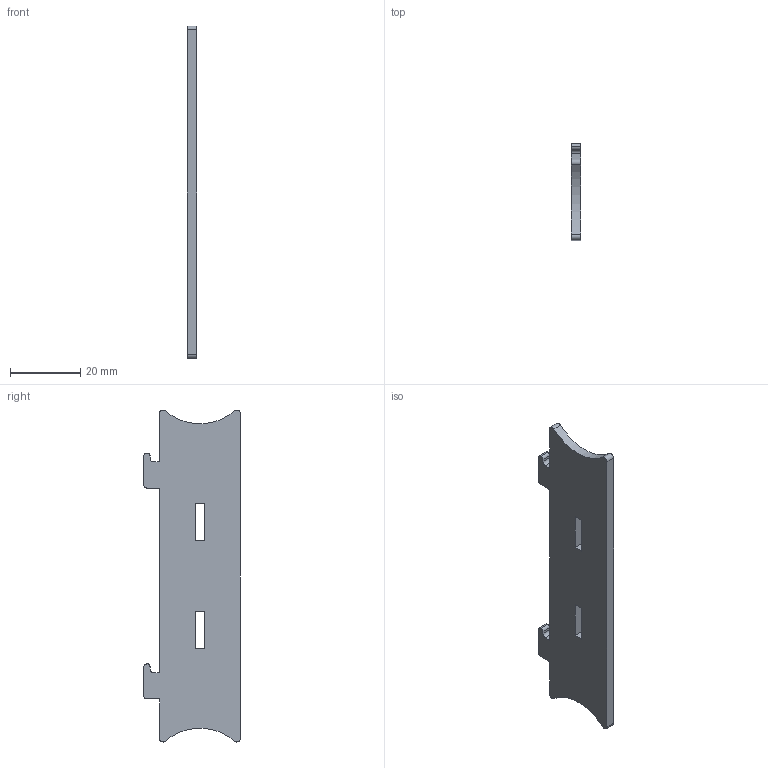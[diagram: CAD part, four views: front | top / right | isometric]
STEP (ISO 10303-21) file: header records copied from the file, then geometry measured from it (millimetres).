
FILE_DESCRIPTION(/* description */ ('STEP AP242 Edition 2','CAx-IF Rec.Pracs.---Representation and Presentation of Product Manufacturing Information (PMI)---4.0---2014-10-13','CAx-IF Rec.Pracs.---3D Tessellated Geometry---0.4---2014-09-14','2;1','CAx-IF Rec.Pracs.---User Defined Attributes---1.5---2016-08-15'),/* implementation_level */ '2;1');
FILE_NAME(/* name */ 'FlexibleBoxPartStudio - SlidingBoltLatch',/* time_stamp */ '2026-02-11T15:49:31Z',/* author */ (''),/* organization */ (''),/* preprocessor_version */ 'ST-DEVELOPER v20',/* originating_system */ 'ONSHAPE BY PTC INC, 1.210',/* authorisation */ ' ');
FILE_SCHEMA (('AP242_MANAGED_MODEL_BASED_3D_ENGINEERING_MIM_LF { 1 0 10303 442 3 1 4 }'));
Length unit declared in the file: metre
Products named in the file (1): SlidingBoltLatch
Bounding box: 2.7 x 27.5 x 94.51 mm (x, y, z)
Volume: 5626.8 mm3; surface area: 5018.7 mm2
Topology: 1 solids, 1 shells, 36 faces, 102 edges, 68 vertices
Faces by surface type: plane 22, cylinder 14
Entity records: 1204 total; most frequent: CARTESIAN_POINT 207, ORIENTED_EDGE 204, DIRECTION 204, EDGE_CURVE 102, LINE 74, VECTOR 74, VERTEX_POINT 68, AXIS2_PLACEMENT_3D 65
